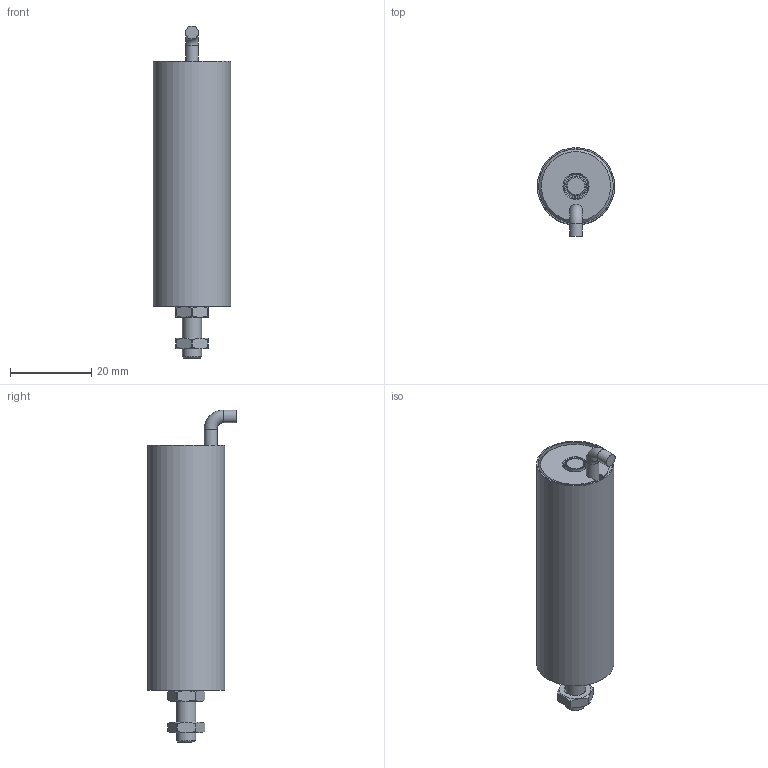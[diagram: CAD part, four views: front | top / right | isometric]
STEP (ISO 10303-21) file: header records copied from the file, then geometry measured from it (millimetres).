
FILE_DESCRIPTION(/* description */ ('ILPS-19Z-XXX-A-00-ZZ shrinkwrapped'),/* implementation_level */ '2;1');
FILE_NAME(/* name */ 'ILPS-19Z-050-A-00-ZZ shrinkwrapped.stp',/* time_stamp */ '2026-08-13T16:05:48-04:00',/* author */ ('Cameron'),/* organization */ ('hgsi'),/* preprocessor_version */ 'ST-DEVELOPER v20.1',/* originating_system */ 'Autodesk Inventor 2027',/* authorisation */ '');
FILE_SCHEMA (('AUTOMOTIVE_DESIGN { 1 0 10303 214 3 1 1 }'));
Length unit declared in the file: inch
Products named in the file (4): ILPS-19Z-050-A-00-ZZ shrinkwrapped; ILPS-19Z-050-A-00-ZZ-A shrinkwrapped body; ILPS-19Z-050 Rod; 8200-0360
Assembly tree (4 placements, depth 2):
  ILPS-19Z-050-A-00-ZZ shrinkwrapped
    ILPS-19Z-050-A-00-ZZ-A shrinkwrapped body
    ILPS-19Z-050 Rod
    8200-0360  x2
Bounding box: 19.05 x 21.89 x 81.85 mm (x, y, z)
Volume: 4179.6 mm3; surface area: 14210 mm2
Topology: 6 solids, 6 shells, 95 faces, 226 edges, 149 vertices
Faces by surface type: cylinder 41, plane 33, cone 16, bspline 4, torus 1
Full cylindrical faces by diameter (mm): 3.175 x2, 3.961 x2, 4.75 x1, 4.775 x1, 5 x4, 5.08 x1, 5.944 x2, 5.994 x1, 7.061 x1, 7.137 x2, 18.364 x1, 18.415 x1, 19.05 x1
Entity records: 2811 total; most frequent: CARTESIAN_POINT 1138, DIRECTION 304, ORIENTED_EDGE 302, EDGE_CURVE 151, AXIS2_PLACEMENT_3D 127, VERTEX_POINT 99, EDGE_LOOP 82, FACE_OUTER_BOUND 68
